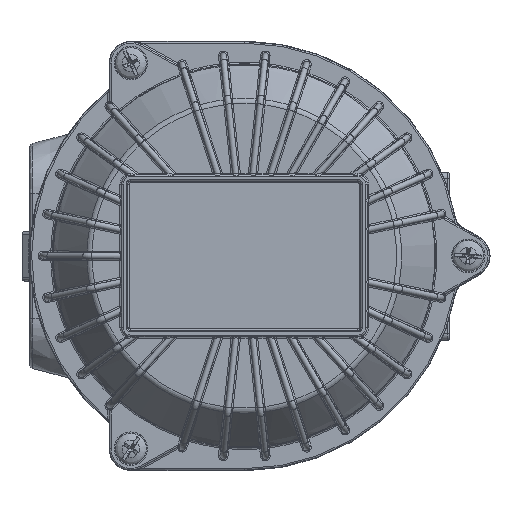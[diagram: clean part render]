
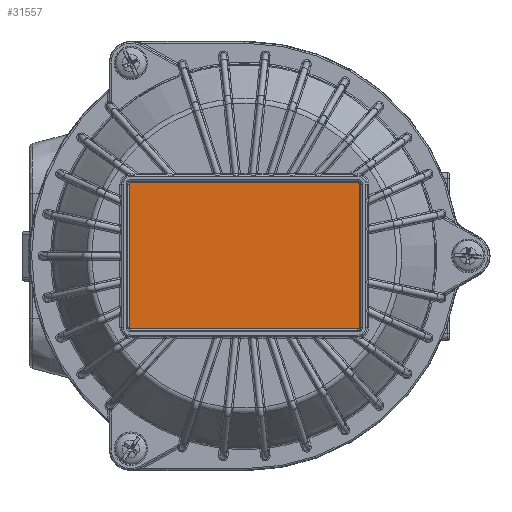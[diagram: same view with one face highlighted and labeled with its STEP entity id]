
A CAD part, top view. The second image highlights one B-rep face of the part: STEP entity #31557.
In plain terms, the highlighted planar face has unit normal (0, 0, 1).
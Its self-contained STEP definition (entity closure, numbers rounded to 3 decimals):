
#4848=PLANE('',#34394);
#6749=FACE_OUTER_BOUND('',#8743,.T.);
#8743=EDGE_LOOP('',(#26967,#26968,#26969,#26970,#26971,#26972,#26973,#26974));
#10199=LINE('',#71463,#11313);
#10201=LINE('',#71483,#11315);
#10203=LINE('',#71503,#11317);
#10205=LINE('',#71520,#11319);
#11313=VECTOR('',#40674,10.);
#11315=VECTOR('',#40686,10.);
#11317=VECTOR('',#40698,10.);
#11319=VECTOR('',#40708,10.);
#12948=CIRCLE('',#34369,0.5);
#12954=CIRCLE('',#34376,0.5);
#12958=CIRCLE('',#34381,0.5);
#12962=CIRCLE('',#34386,0.5);
#15615=VERTEX_POINT('',#71451);
#15616=VERTEX_POINT('',#71453);
#15618=VERTEX_POINT('',#71459);
#15620=VERTEX_POINT('',#71473);
#15622=VERTEX_POINT('',#71479);
#15624=VERTEX_POINT('',#71493);
#15626=VERTEX_POINT('',#71499);
#15628=VERTEX_POINT('',#71513);
#19645=EDGE_CURVE('',#15615,#15616,#12948,.T.);
#19650=EDGE_CURVE('',#15616,#15618,#10199,.T.);
#19653=EDGE_CURVE('',#15618,#15620,#12954,.T.);
#19656=EDGE_CURVE('',#15620,#15622,#10201,.T.);
#19659=EDGE_CURVE('',#15622,#15624,#12958,.T.);
#19662=EDGE_CURVE('',#15624,#15626,#10203,.T.);
#19665=EDGE_CURVE('',#15626,#15628,#12962,.T.);
#19667=EDGE_CURVE('',#15628,#15615,#10205,.T.);
#26967=ORIENTED_EDGE('',*,*,#19645,.F.);
#26968=ORIENTED_EDGE('',*,*,#19667,.F.);
#26969=ORIENTED_EDGE('',*,*,#19665,.F.);
#26970=ORIENTED_EDGE('',*,*,#19662,.F.);
#26971=ORIENTED_EDGE('',*,*,#19659,.F.);
#26972=ORIENTED_EDGE('',*,*,#19656,.F.);
#26973=ORIENTED_EDGE('',*,*,#19653,.F.);
#26974=ORIENTED_EDGE('',*,*,#19650,.F.);
#31557=ADVANCED_FACE('',(#6749),#4848,.T.);
#34369=AXIS2_PLACEMENT_3D('',#71454,#40663,#40664);
#34376=AXIS2_PLACEMENT_3D('',#71477,#40679,#40680);
#34381=AXIS2_PLACEMENT_3D('',#71497,#40691,#40692);
#34386=AXIS2_PLACEMENT_3D('',#71517,#40703,#40704);
#34394=AXIS2_PLACEMENT_3D('',#71539,#40728,#40729);
#40663=DIRECTION('center_axis',(0.,0.,
-1.));
#40664=DIRECTION('ref_axis',(0.707,0.707,0.));
#40674=DIRECTION('',(0.,-1.,0.));
#40679=DIRECTION('center_axis',(0.,0.,
-1.));
#40680=DIRECTION('ref_axis',(0.707,-0.707,0.));
#40686=DIRECTION('',(-1.,0.,0.));
#40691=DIRECTION('center_axis',(0.,0.,
-1.));
#40692=DIRECTION('ref_axis',(-0.707,-0.707,0.));
#40698=DIRECTION('',(0.,1.,0.));
#40703=DIRECTION('center_axis',(0.,0.,
-1.));
#40704=DIRECTION('ref_axis',(-0.707,0.707,0.));
#40708=DIRECTION('',(1.,0.,0.));
#40728=DIRECTION('center_axis',(0.,0.,
1.));
#40729=DIRECTION('ref_axis',(1.,0.,0.));
#71451=CARTESIAN_POINT('',(36.5,23.5,25.5));
#71453=CARTESIAN_POINT('',(37.,23.,25.5));
#71454=CARTESIAN_POINT('Origin',(36.5,23.,25.5));
#71459=CARTESIAN_POINT('',(37.,-23.,25.5));
#71463=CARTESIAN_POINT('',(37.,-11.5,25.5));
#71473=CARTESIAN_POINT('',(36.5,-23.5,25.5));
#71477=CARTESIAN_POINT('Origin',(36.5,-23.,25.5));
#71479=CARTESIAN_POINT('',(-36.5,-23.5,25.5));
#71483=CARTESIAN_POINT('',(-18.25,-23.5,25.5));
#71493=CARTESIAN_POINT('',(-37.,-23.,25.5));
#71497=CARTESIAN_POINT('Origin',(-36.5,-23.,25.5));
#71499=CARTESIAN_POINT('',(-37.,23.,25.5));
#71503=CARTESIAN_POINT('',(-37.,11.5,25.5));
#71513=CARTESIAN_POINT('',(-36.5,23.5,25.5));
#71517=CARTESIAN_POINT('Origin',(-36.5,23.,25.5));
#71520=CARTESIAN_POINT('',(18.25,23.5,25.5));
#71539=CARTESIAN_POINT('Origin',(0.,0.,
25.5));
